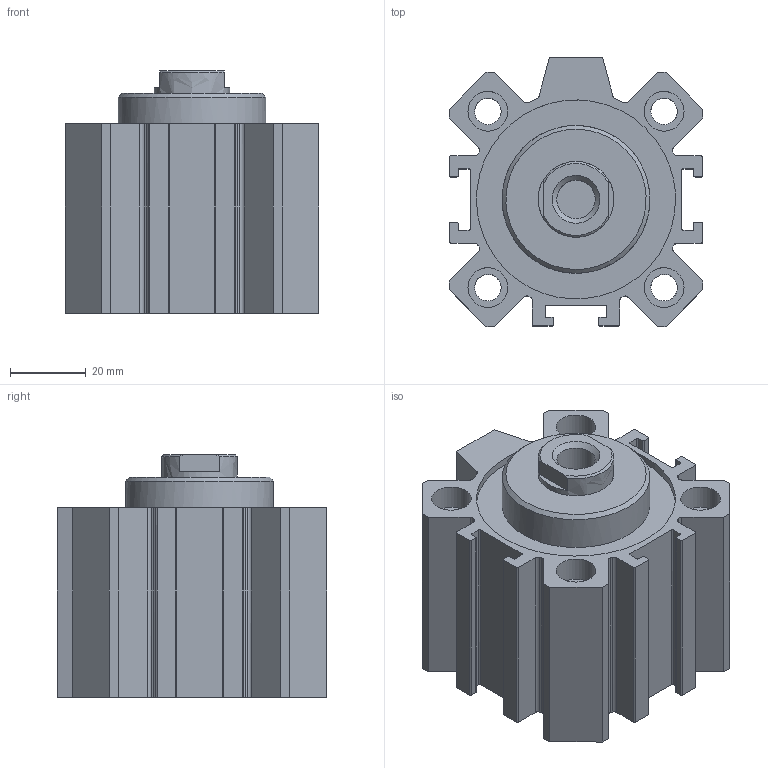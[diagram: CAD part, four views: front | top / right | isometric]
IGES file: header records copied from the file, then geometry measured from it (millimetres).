
Global section: file name: 1511_50_0010; native system: Autodesk Inventor 2014; preprocessor: unknown; author: A. Manieri; date: 20160824.133949; units: millimetre
Bounding box: 67 x 71 x 64 mm (x, y, z)
Volume: 163035.4 mm3; surface area: 50734.1 mm2
Topology: 2 solids, 2 shells, 165 faces, 443 edges, 300 vertices
Faces by surface type: bspline 165
